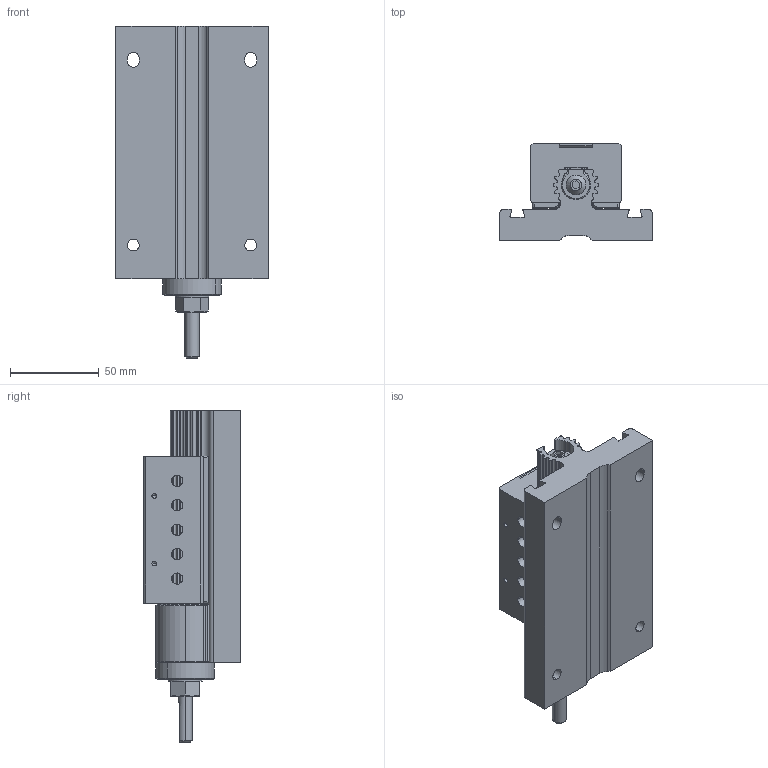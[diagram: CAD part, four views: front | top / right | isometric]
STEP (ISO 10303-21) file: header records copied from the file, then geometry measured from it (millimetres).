
FILE_DESCRIPTION (( 'STEP AP214' ), '1' );
FILE_NAME ('AMETEK-RGW10KR-A00-0100-01.00-001-0000-00.STEP', '2022-03-04T09:24:19', ( '' ), ( '' ), 'SwSTEP 2.0', 'SolidWorks 2021', '' );
FILE_SCHEMA (( 'AUTOMOTIVE_DESIGN' ));
Length unit declared in the file: inch
Products named in the file (26): Washer Bearing; 9; w_6000_2rs1_2_03; AMETEK-RGW10KR-A00-0100-01.00-001-0000-00; Rail Dumbied_RGW_10_Default_Rail; RGW10_bearing_assembly; 7; Hex Nut - Style 1 (Regular Thread - Metric) M10 x 1; PART1; Outrigger RGS10; 11; 6; Bushing Cover RGS10000; 92360A310 1_4-20 X 3_8; 10; Leadscrew RGW 10000_Default_Rail; Bearing Support Holder; 2; 1; 4; 3; Bearing Cover; 8; End Support Bushing RGS10000; 85460; 5
Assembly tree (27 placements, depth 4):
  AMETEK-RGW10KR-A00-0100-01.00-001-0000-00
    Rail Dumbied_RGW_10_Default_Rail
    Leadscrew RGW 10000_Default_Rail
    Outrigger RGS10  x2
    85460
    Bushing Cover RGS10000
    RGW10_bearing_assembly
      Bearing Cover
      Bearing Support Holder
      Washer Bearing
      Hex Nut - Style 1 (Regular Thread - Metric) M10 x 1
      w_6000_2rs1_2_03  x2
        11
        9
        10
        8
        5
        4
        6
        7
        2
        3
        1
    End Support Bushing RGS10000
    92360A310 1_4-20 X 3_8
      PART1
Bounding box: 85.72 x 54.52 x 186.69 mm (x, y, z)
Volume: 377584.5 mm3; surface area: 114425.5 mm2
Topology: 28 solids, 67 shells, 1140 faces, 2997 edges, 1884 vertices
Faces by surface type: cylinder 464, plane 396, cone 156, torus 64, bspline 60
Entity records: 46014 total; most frequent: CARTESIAN_POINT 9766, ORIENTED_EDGE 5060, DIRECTION 4917, EDGE_CURVE 2560, AXIS2_PLACEMENT_3D 1818, VERTEX_POINT 1649, LINE 1281, VECTOR 1281
